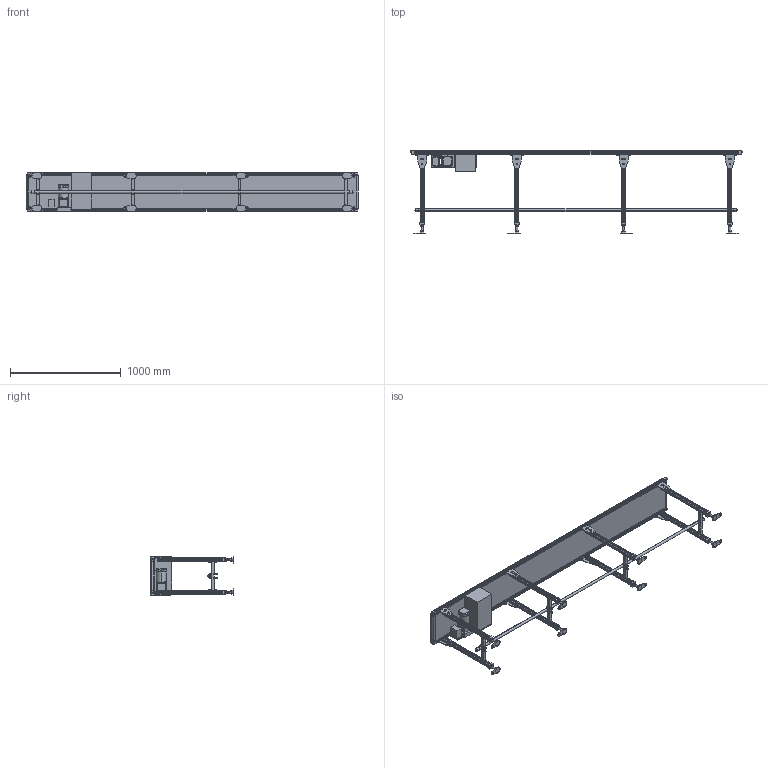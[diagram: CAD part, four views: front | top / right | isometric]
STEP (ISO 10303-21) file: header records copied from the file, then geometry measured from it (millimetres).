
FILE_DESCRIPTION( (''), '2;1');
FILE_NAME ('MKE1-309-300-300-K-180-O.stp','2025-02-04T11:07:10',(''),(''),'spGate 20.6.2 (****-****-****-****)','','');
FILE_SCHEMA (('AUTOMOTIVE_DESIGN'));
Length unit declared in the file: millimetre
Products named in the file (58): NewModel; TEMP_X_T-prt0; TEMP_X_T-prt1; TEMP_X_T-prt2; TEMP_X_T-prt3; TEMP_X_T-prt4; TEMP_X_T-prt5; TEMP_X_T-prt6; TEMP_X_T-prt7; TEMP_X_T-prt8; TEMP_X_T-prt9; TEMP_X_T-prt10; TEMP_X_T-prt11; TEMP_X_T-prt12; TEMP_X_T-prt13; TEMP_X_T-prt14; TEMP_X_T-prt15; TEMP_X_T-prt16; TEMP_X_T-prt17; TEMP_X_T-prt18; TEMP_X_T-prt19; TEMP_X_T-prt20; TEMP_X_T-prt21; TEMP_X_T-prt22; TEMP_X_T-prt23; TEMP_X_T-prt24; TEMP_X_T-prt25; TEMP_X_T-prt26; TEMP_X_T-prt27; TEMP_X_T-prt28; TEMP_X_T-prt29; TEMP_X_T-prt30; TEMP_X_T-prt31; TEMP_X_T-prt32; TEMP_X_T-prt33; TEMP_X_T-prt34; TEMP_X_T-prt35; TEMP_X_T-prt36; TEMP_X_T-prt37; TEMP_X_T-prt38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
Assembly tree (57 placements, depth 2):
  NewModel
    TEMP_X_T-prt0
    TEMP_X_T-prt1
    TEMP_X_T-prt2
    TEMP_X_T-prt3
    TEMP_X_T-prt4
    TEMP_X_T-prt5
    TEMP_X_T-prt6
    TEMP_X_T-prt7
    TEMP_X_T-prt8
    TEMP_X_T-prt9
    TEMP_X_T-prt10
    TEMP_X_T-prt11
    TEMP_X_T-prt12
    TEMP_X_T-prt13
    TEMP_X_T-prt14
    TEMP_X_T-prt15
    TEMP_X_T-prt16
    TEMP_X_T-prt17
    TEMP_X_T-prt18
    TEMP_X_T-prt19
    TEMP_X_T-prt20
    TEMP_X_T-prt21
    TEMP_X_T-prt22
    TEMP_X_T-prt23
    TEMP_X_T-prt24
    TEMP_X_T-prt25
    TEMP_X_T-prt26
    TEMP_X_T-prt27
    TEMP_X_T-prt28
    TEMP_X_T-prt29
    TEMP_X_T-prt30
    TEMP_X_T-prt31
    TEMP_X_T-prt32
    TEMP_X_T-prt33
    TEMP_X_T-prt34
    TEMP_X_T-prt35
    TEMP_X_T-prt36
    TEMP_X_T-prt37
    TEMP_X_T-prt38
    TEMP_X_T-prt39
    TEMP_X_T-prt40
    TEMP_X_T-prt41
    TEMP_X_T-prt42
    TEMP_X_T-prt43
    TEMP_X_T-prt44
    TEMP_X_T-prt45
    TEMP_X_T-prt46
    TEMP_X_T-prt47
    TEMP_X_T-prt48
    TEMP_X_T-prt49
    TEMP_X_T-prt50
    TEMP_X_T-prt51
    TEMP_X_T-prt52
    TEMP_X_T-prt53
    TEMP_X_T-prt54
    TEMP_X_T-prt55
    TEMP_X_T-prt56
Bounding box: 3002 x 752.8 x 359.2 mm (x, y, z)
Volume: 27248956.8 mm3; surface area: 8807810.6 mm2
Topology: 57 solids, 57 shells, 2681 faces, 6719 edges, 4300 vertices
Faces by surface type: plane 1888, cylinder 586, bspline 202, sphere 5
Entity records: 139319 total; most frequent: CARTESIAN_POINT 18214, ORIENTED_EDGE 13414, DIRECTION 13300, COLOUR_RGB 9445, PRESENTATION_STYLE_ASSIGNMENT 9445, STYLED_ITEM 9445, EDGE_CURVE 6707, DRAUGHTING_PRE_DEFINED_CURVE_FONT 6707
